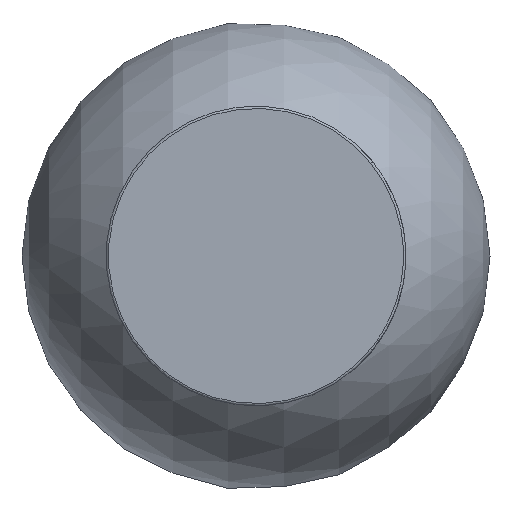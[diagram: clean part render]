
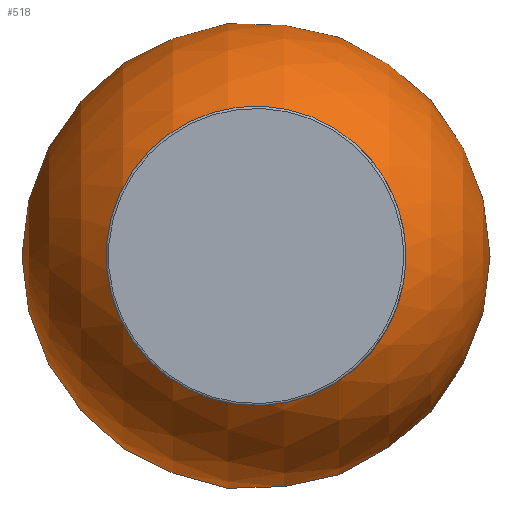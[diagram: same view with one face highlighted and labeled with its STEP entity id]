
A CAD part, front view. The second image highlights one B-rep face of the part: STEP entity #518.
In plain terms, the highlighted spherical face has radius 199 mm.
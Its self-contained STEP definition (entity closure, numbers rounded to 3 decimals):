
#27=SPHERICAL_SURFACE('',#640,199.);
#140=FACE_OUTER_BOUND('',#179,.T.);
#179=EDGE_LOOP('',(#464,#465));
#216=CIRCLE('',#641,199.);
#260=VERTEX_POINT('',#2253);
#261=VERTEX_POINT('',#2254);
#329=EDGE_CURVE('',#260,#261,#216,.T.);
#464=ORIENTED_EDGE('',*,*,#329,.T.);
#465=ORIENTED_EDGE('',*,*,#329,.F.);
#518=ADVANCED_FACE('',(#140),#27,.T.);
#640=AXIS2_PLACEMENT_3D('',#2252,#791,#792);
#641=AXIS2_PLACEMENT_3D('',#2255,#793,#794);
#791=DIRECTION('center_axis',(1.,0.,0.));
#792=DIRECTION('ref_axis',(0.,-1.,0.));
#793=DIRECTION('center_axis',(0.,0.,1.));
#794=DIRECTION('ref_axis',(0.,1.,0.));
#2252=CARTESIAN_POINT('Origin',(0.,0.,0.));
#2253=CARTESIAN_POINT('',(199.,0.,0.));
#2254=CARTESIAN_POINT('',(-199.,0.,0.));
#2255=CARTESIAN_POINT('Origin',(0.,0.,0.));
